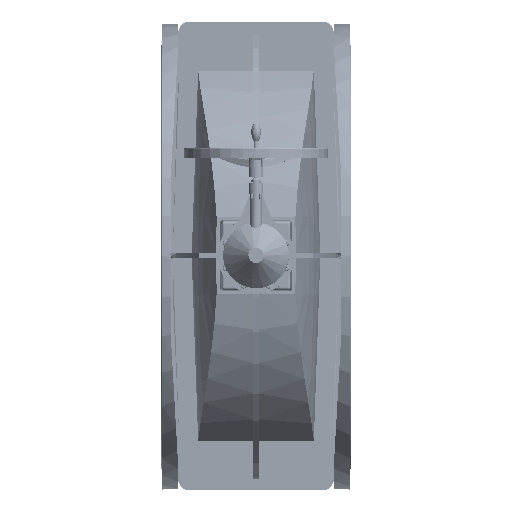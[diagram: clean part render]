
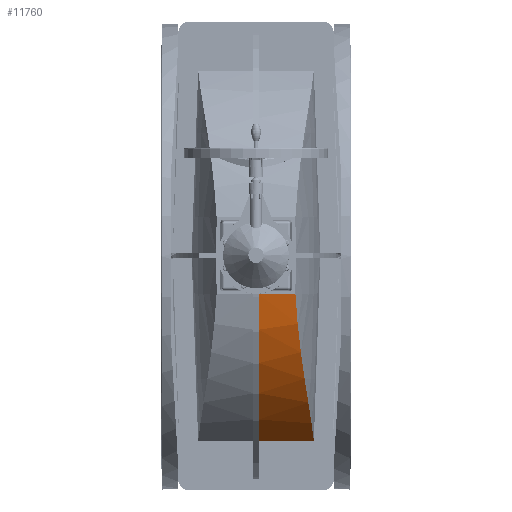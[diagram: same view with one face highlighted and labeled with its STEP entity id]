
A CAD part, top view. The second image highlights one B-rep face of the part: STEP entity #11760.
In plain terms, the highlighted cylindrical face has radius 886.667 mm (diameter 1773.33 mm), a partial arc.
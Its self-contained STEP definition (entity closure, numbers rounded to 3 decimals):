
#11760=ADVANCED_FACE('',(#21212),#21214,.T.);
#21212=FACE_BOUND('',#21213,.T.);
#21213=EDGE_LOOP('',(#36373,#36374,#36375,#36376));
#21214=CYLINDRICAL_SURFACE('',#21215,886.667);
#21215=AXIS2_PLACEMENT_3D('',#21216,#21217,#21218);
#21216=CARTESIAN_POINT('',(0.,-276.005,-65.));
#21217=DIRECTION('',(0.,1.,0.));
#21218=DIRECTION('',(-0.948,0.,0.318));
#36373=ORIENTED_EDGE('',*,*,#43387,.F.);
#36374=ORIENTED_EDGE('',*,*,#43382,.F.);
#36375=ORIENTED_EDGE('',*,*,#43388,.T.);
#36376=ORIENTED_EDGE('',*,*,#43306,.F.);
#43306=EDGE_CURVE('',#50478,#50480,#50481,.T.);
#43382=EDGE_CURVE('',#50619,#50615,#50621,.F.);
#43387=EDGE_CURVE('',#50615,#50478,#50628,.T.);
#43388=EDGE_CURVE('',#50619,#50480,#50629,.T.);
#50478=VERTEX_POINT('',#73355);
#50480=VERTEX_POINT('',#73359);
#50481=CIRCLE('',#73360,886.667);
#50615=VERTEX_POINT('',#73847);
#50619=VERTEX_POINT('',#73880);
#50621=B_SPLINE_CURVE_WITH_KNOTS('',3,
(#73893,#73894,#73895,#73896,#73897,#73898,#73899,#73900,#73901,#73902,#73903,#73904,
#73905,#73906,#73907,#73908,#73909,#73910,#73911,#73912,#73913,#73914,#73915,#73916,
#73917,#73918,#73919,#73920,#73921,#73922,#73923,#73924,#73925,#73926,#73927,#73928,
#73929,#73930,#73931,#73932,#73933,#73934,#73935),
.UNSPECIFIED.,.F.,.F.,
(4,1,1,1,1,1,1,1,1,1,1,1,1,1,1,1,1,1,1,1,1,1,1,1,1,1,1,1,1,1,1,1,1,1,1,1,1,1,1,1,
4),
(0.,0.035,0.069,0.104,0.138,0.173,
0.208,0.243,0.277,0.312,0.346,
0.38,0.414,0.448,0.48,0.512,
0.544,0.575,0.605,0.634,0.662,
0.689,0.715,0.74,0.763,0.786,
0.808,0.829,0.848,0.866,0.883,
0.898,0.912,0.926,0.938,0.95,
0.96,0.971,0.981,0.991,1.),
.UNSPECIFIED.);
#50628=LINE('',#73981,#73982);
#50629=LINE('',#73984,#73985);
#73355=CARTESIAN_POINT('',(-767.105,-10.833,379.667));
#73359=CARTESIAN_POINT('',(-159.098,-10.833,807.276));
#73360=AXIS2_PLACEMENT_3D('',#73361,#73362,#73363);
#73361=CARTESIAN_POINT('',(0.,-10.833,-65.));
#73362=DIRECTION('',(0.,1.,0.));
#73363=DIRECTION('',(-0.865,0.,0.502));
#73847=CARTESIAN_POINT('',(-767.105,-239.895,379.667));
#73880=CARTESIAN_POINT('',(-159.098,-163.507,807.276));
#73893=CARTESIAN_POINT('',(-767.105,-239.895,379.667));
#73894=CARTESIAN_POINT('',(-762.65,-239.427,387.352));
#73895=CARTESIAN_POINT('',(-753.506,-238.403,402.593));
#73896=CARTESIAN_POINT('',(-739.121,-236.626,425.015));
#73897=CARTESIAN_POINT('',(-724.07,-234.621,446.993));
#73898=CARTESIAN_POINT('',(-708.372,-232.408,468.501));
#73899=CARTESIAN_POINT('',(-692.041,-230.003,489.521));
#73900=CARTESIAN_POINT('',(-675.094,-227.424,510.032));
#73901=CARTESIAN_POINT('',(-657.55,-224.691,530.014));
#73902=CARTESIAN_POINT('',(-639.425,-221.823,549.45));
#73903=CARTESIAN_POINT('',(-620.782,-218.845,568.278));
#73904=CARTESIAN_POINT('',(-601.686,-215.786,586.446));
#73905=CARTESIAN_POINT('',(-582.261,-212.68,603.861));
#73906=CARTESIAN_POINT('',(-562.539,-209.549,620.527));
#73907=CARTESIAN_POINT('',(-542.653,-206.428,636.368));
#73908=CARTESIAN_POINT('',(-522.638,-203.333,651.402));
#73909=CARTESIAN_POINT('',(-502.626,-200.298,665.576));
#73910=CARTESIAN_POINT('',(-482.549,-197.321,678.986));
#73911=CARTESIAN_POINT('',(-462.556,-194.432,691.573));
#73912=CARTESIAN_POINT('',(-442.707,-191.646,703.349));
#73913=CARTESIAN_POINT('',(-423.302,-189.007,714.199));
#73914=CARTESIAN_POINT('',(-404.276,-186.506,724.232));
#73915=CARTESIAN_POINT('',(-385.813,-184.166,733.413));
#73916=CARTESIAN_POINT('',(-367.837,-181.972,741.845));
#73917=CARTESIAN_POINT('',(-350.536,-179.943,749.504));
#73918=CARTESIAN_POINT('',(-333.67,-178.045,756.553));
#73919=CARTESIAN_POINT('',(-317.371,-176.289,762.981));
#73920=CARTESIAN_POINT('',(-301.604,-174.664,768.847));
#73921=CARTESIAN_POINT('',(-286.725,-173.199,774.074));
#73922=CARTESIAN_POINT('',(-272.598,-171.87,778.763));
#73923=CARTESIAN_POINT('',(-259.438,-170.688,782.897));
#73924=CARTESIAN_POINT('',(-247.119,-169.632,786.563));
#73925=CARTESIAN_POINT('',(-235.871,-168.708,789.742));
#73926=CARTESIAN_POINT('',(-225.354,-167.882,792.572));
#73927=CARTESIAN_POINT('',(-215.549,-167.143,795.087));
#73928=CARTESIAN_POINT('',(-206.227,-166.47,797.367));
#73929=CARTESIAN_POINT('',(-197.524,-165.867,799.4));
#73930=CARTESIAN_POINT('',(-189.253,-165.317,801.247));
#73931=CARTESIAN_POINT('',(-181.388,-164.815,802.927));
#73932=CARTESIAN_POINT('',(-173.762,-164.348,804.485));
#73933=CARTESIAN_POINT('',(-166.377,-163.914,805.928));
#73934=CARTESIAN_POINT('',(-161.504,-163.64,806.837));
#73935=CARTESIAN_POINT('',(-159.098,-163.507,807.276));
#73981=CARTESIAN_POINT('',(-767.105,-239.895,379.667));
#73982=VECTOR('',#73983,1.);
#73983=DIRECTION('',(0.,1.,0.));
#73984=CARTESIAN_POINT('',(-159.098,-163.507,807.276));
#73985=VECTOR('',#73986,1.);
#73986=DIRECTION('',(0.,1.,0.));
